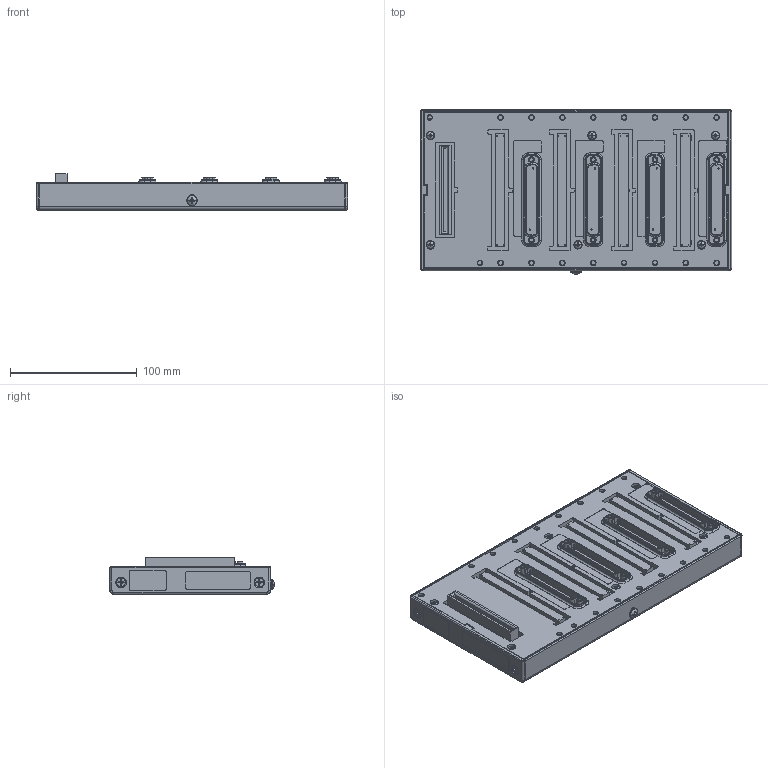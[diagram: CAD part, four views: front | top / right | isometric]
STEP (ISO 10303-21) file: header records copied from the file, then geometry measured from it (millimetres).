
FILE_DESCRIPTION((''),'2;1');
FILE_NAME('CU_CFP-BP-4','2007-07-16T',('chrisj'),(''),'PRO/ENGINEER BY PARAMETRIC TECHNOLOGY CORPORATION, 2006300','PRO/ENGINEER BY PARAMETRIC TECHNOLOGY CORPORATION, 2006300','');
FILE_SCHEMA(('AUTOMOTIVE_DESIGN_CC2 { 1 2 10303 214 -1 1 5 2 }'));
Products named in the file (1): CU_CFP-BP-4
Bounding box: 245.87 x 129.8 x 28.96 mm (x, y, z)
Volume: 295327.8 mm3; surface area: 195208.2 mm2
Topology: 10 solids, 10 shells, 3093 faces, 7983 edges, 4956 vertices
Faces by surface type: plane 1921, cylinder 623, bspline 281, cone 140, torus 114, sphere 14
Entity records: 102110 total; most frequent: CARTESIAN_POINT 28958, ORIENTED_EDGE 15566, DIRECTION 14032, EDGE_CURVE 7783, VECTOR 5636, LINE 5636, VERTEX_POINT 5146, AXIS2_PLACEMENT_3D 4198
